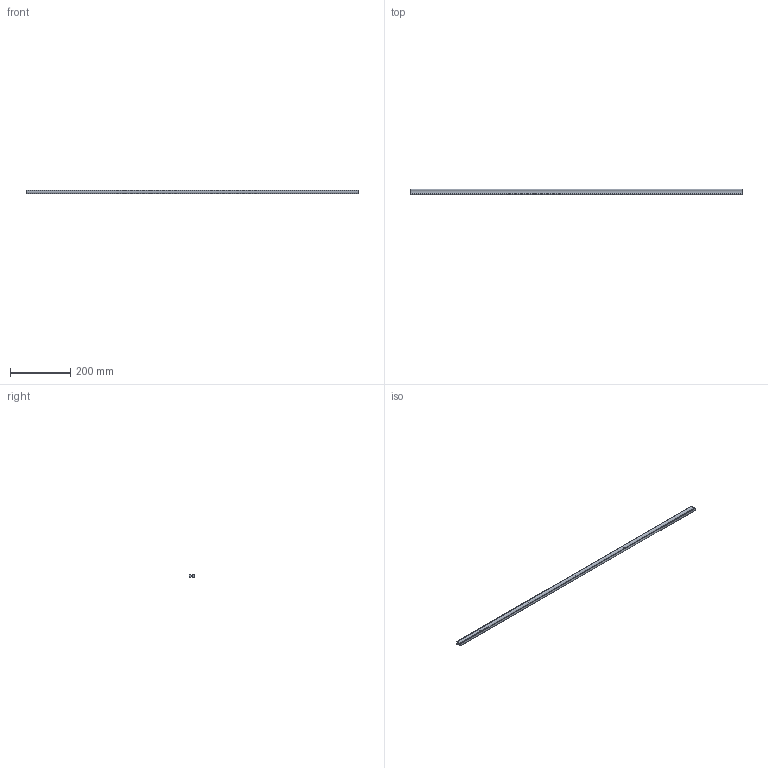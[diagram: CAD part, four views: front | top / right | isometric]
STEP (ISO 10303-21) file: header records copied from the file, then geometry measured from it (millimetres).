
FILE_DESCRIPTION( ( 'STEP AP214' ), '1' );
FILE_NAME( 'C:/Users/kulkarni/Desktop/Apurva/2015/Prodecor_2016/Cadfiles/kervo/9190440.stp', ' ', ( ' ' ), ( ' ' ), 'PSStep 15.0.47', 'PARTsolutions', ' ' );
FILE_SCHEMA( ( 'AUTOMOTIVE_DESIGN { 1 0 10303 214 1 1 1 1 }' ) );
Length unit declared in the file: millimetre
Products named in the file (1): _
Bounding box: 1100 x 17.96 x 10 mm (x, y, z)
Volume: 149997.2 mm3; surface area: 60162 mm2
Topology: 1 solids, 1 shells, 20 faces, 39 edges, 26 vertices
Faces by surface type: cylinder 12, plane 8
Full cylindrical faces by diameter (mm): 4 x5
Entity records: 678 total; most frequent: DIRECTION 100, CARTESIAN_POINT 81, ORIENTED_EDGE 68, AXIS2_PLACEMENT_3D 45, EDGE_CURVE 34, EDGE_LOOP 30, VERTEX_POINT 26, FACE_OUTER_BOUND 25
